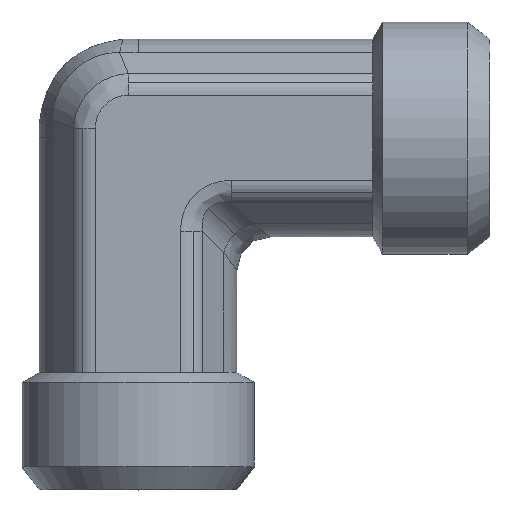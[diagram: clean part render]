
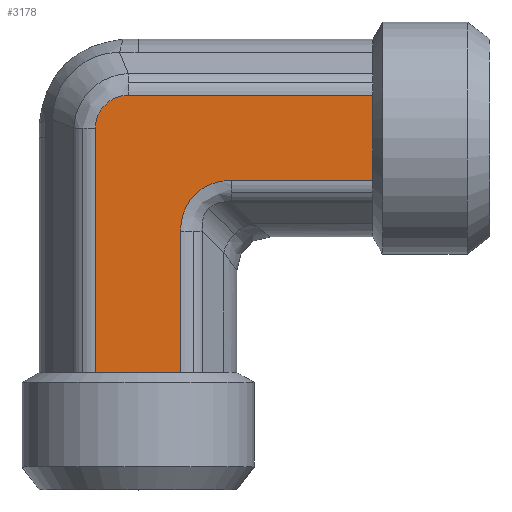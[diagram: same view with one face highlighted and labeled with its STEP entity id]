
A CAD part, top view. The second image highlights one B-rep face of the part: STEP entity #3178.
In plain terms, the highlighted planar face has unit normal (0, 0, 1) as drawn and (0, -1, 0) by its records, which use the part's own axes.
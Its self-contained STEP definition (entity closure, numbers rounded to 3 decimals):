
#361=CARTESIAN_POINT('',(1.071,-5.9,2.54));
#362=VERTEX_POINT('',#361);
#370=CARTESIAN_POINT('',(9.5,-5.9,2.54));
#371=VERTEX_POINT('',#370);
#372=CARTESIAN_POINT('',(1.071,-5.9,2.54));
#373=DIRECTION('',(1.0,0.0,0.0));
#374=VECTOR('',#373,8.429);
#375=LINE('',#372,#374);
#376=EDGE_CURVE('',#362,#371,#375,.T.);
#485=CARTESIAN_POINT('',(-7.04,-5.9,-0.585));
#486=VERTEX_POINT('',#485);
#494=CARTESIAN_POINT('',(-7.04,-5.9,14.0));
#495=VERTEX_POINT('',#494);
#496=CARTESIAN_POINT('',(-7.04,-5.9,-0.585));
#497=DIRECTION('',(0.0,0.0,1.0));
#498=VECTOR('',#497,14.585);
#499=LINE('',#496,#498);
#500=EDGE_CURVE('',#486,#495,#499,.T.);
#776=CARTESIAN_POINT('',(9.5,-5.9,0.));
#777=VERTEX_POINT('',#776);
#1949=CARTESIAN_POINT('',(-4.5,-5.9,14.0));
#1950=VERTEX_POINT('',#1949);
#2183=CARTESIAN_POINT('',(-4.5,-5.9,14.0));
#2184=DIRECTION('',(-1.0,0.0,0.0));
#2185=VECTOR('',#2184,2.54);
#2186=LINE('',#2183,#2185);
#2187=EDGE_CURVE('',#1950,#495,#2186,.T.);
#2260=CARTESIAN_POINT('',(-1.96,-5.9,14.0));
#2261=VERTEX_POINT('',#2260);
#2262=CARTESIAN_POINT('',(-1.96,-5.9,14.0));
#2263=DIRECTION('',(-1.0,0.0,0.0));
#2264=VECTOR('',#2263,2.54);
#2265=LINE('',#2262,#2264);
#2266=EDGE_CURVE('',#2261,#1950,#2265,.T.);
#2371=CARTESIAN_POINT('',(9.5,-5.9,-2.54));
#2372=VERTEX_POINT('',#2371);
#2373=CARTESIAN_POINT('',(9.5,-5.9,-2.54));
#2374=DIRECTION('',(0.0,0.0,1.0));
#2375=VECTOR('',#2374,2.54);
#2376=LINE('',#2373,#2375);
#2377=EDGE_CURVE('',#2372,#777,#2376,.T.);
#2418=CARTESIAN_POINT('',(9.5,-5.9,0.));
#2419=DIRECTION('',(0.0,0.0,1.0));
#2420=VECTOR('',#2419,2.54);
#2421=LINE('',#2418,#2420);
#2422=EDGE_CURVE('',#777,#371,#2421,.T.);
#2862=CARTESIAN_POINT('',(-5.085,-5.9,-2.54));
#2863=VERTEX_POINT('',#2862);
#2871=CARTESIAN_POINT('',(-7.04,-5.9,-0.585));
#2872=CARTESIAN_POINT('',(-7.04,-5.9,-0.712));
#2873=CARTESIAN_POINT('',(-7.027,-5.9,-0.841));
#2874=CARTESIAN_POINT('',(-6.961,-5.9,-1.168));
#2875=CARTESIAN_POINT('',(-6.889,-5.9,-1.36));
#2876=CARTESIAN_POINT('',(-6.626,-5.9,-1.825));
#2877=CARTESIAN_POINT('',(-6.394,-5.9,-2.068));
#2878=CARTESIAN_POINT('',(-5.806,-5.9,-2.436));
#2879=CARTESIAN_POINT('',(-5.446,-5.9,-2.54));
#2880=CARTESIAN_POINT('',(-5.085,-5.9,-2.54));
#2881=B_SPLINE_CURVE_WITH_KNOTS('',3,(#2871,#2872,#2873,#2874,#2875,#2876,#2877,#2878,#2879,#2880),.UNSPECIFIED.,.F.,.U.,(4,2,2,2,4),(-3.052,-2.67,-2.06,-1.083,0.0),.UNSPECIFIED.);
#2882=EDGE_CURVE('',#2863,#486,#2881,.F.);
#2909=CARTESIAN_POINT('',(9.5,-5.9,-2.54));
#2910=DIRECTION('',(-1.0,0.0,0.0));
#2911=VECTOR('',#2910,14.585);
#2912=LINE('',#2909,#2911);
#2913=EDGE_CURVE('',#2372,#2863,#2912,.T.);
#3045=CARTESIAN_POINT('',(-1.96,-5.9,5.571));
#3046=VERTEX_POINT('',#3045);
#3047=CARTESIAN_POINT('',(-1.96,-5.9,14.0));
#3048=DIRECTION('',(0.0,0.0,-1.0));
#3049=VECTOR('',#3048,8.429);
#3050=LINE('',#3047,#3049);
#3051=EDGE_CURVE('',#2261,#3046,#3050,.T.);
#3134=CARTESIAN_POINT('',(2.082,-5.9,6.582));
#3135=DIRECTION('',(0.,-1.0,0.));
#3136=DIRECTION('',(-0.707,0.,-0.707));
#3137=AXIS2_PLACEMENT_3D('',#3134,#3135,#3136);
#3138=ELLIPSE('',#3137,4.518,3.5);
#3139=EDGE_CURVE('',#3046,#362,#3138,.T.);
#3161=CARTESIAN_POINT('',(-4.5,-5.9,-3.175));
#3162=DIRECTION('',(0.0,-1.0,0.0));
#3163=DIRECTION('',(0.0,0.0,-1.0));
#3164=AXIS2_PLACEMENT_3D('',#3161,#3162,#3163);
#3165=PLANE('',#3164);
#3166=ORIENTED_EDGE('',*,*,#2913,.F.);
#3167=ORIENTED_EDGE('',*,*,#2377,.T.);
#3168=ORIENTED_EDGE('',*,*,#2422,.T.);
#3169=ORIENTED_EDGE('',*,*,#376,.F.);
#3170=ORIENTED_EDGE('',*,*,#3139,.F.);
#3171=ORIENTED_EDGE('',*,*,#3051,.F.);
#3172=ORIENTED_EDGE('',*,*,#2266,.T.);
#3173=ORIENTED_EDGE('',*,*,#2187,.T.);
#3174=ORIENTED_EDGE('',*,*,#500,.F.);
#3175=ORIENTED_EDGE('',*,*,#2882,.F.);
#3176=EDGE_LOOP('',(#3166,#3167,#3168,#3169,#3170,#3171,#3172,#3173,#3174,#3175));
#3177=FACE_OUTER_BOUND('',#3176,.T.);
#3178=ADVANCED_FACE('',(#3177),#3165,.T.);
